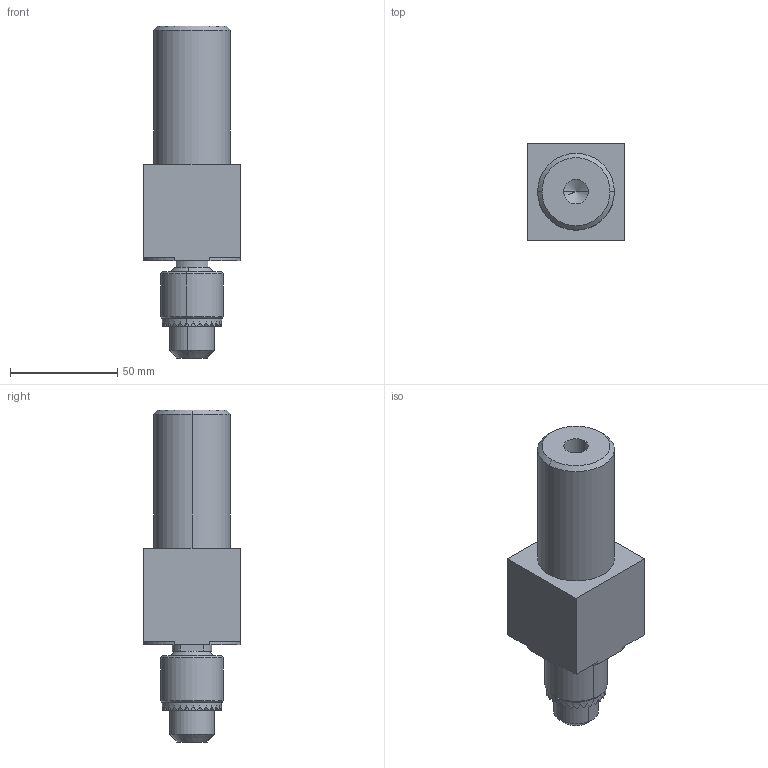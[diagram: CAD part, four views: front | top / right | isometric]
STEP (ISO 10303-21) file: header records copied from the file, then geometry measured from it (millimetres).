
FILE_DESCRIPTION (( 'STEP AP203' ), '1' );
FILE_NAME ('BE2222-22220SK with keychuck 0,5-6,5mm.STEP', '2009-10-15T06:51:09', ( 'HP' ), ( '' ), 'SwSTEP 2.0', 'SolidWorks 2008', '' );
FILE_SCHEMA (( 'CONFIG_CONTROL_DESIGN' ));
Length unit declared in the file: millimetre
Products named in the file (3): BE2222-22220SK with keychuck 0,5-6,5mm; BE2222-22220SK; 041J004003 keychuck 0,5-6,5mm
Assembly tree (2 placements, depth 2):
  BE2222-22220SK with keychuck 0,5-6,5mm
    BE2222-22220SK
    041J004003 keychuck 0,5-6,5mm
Bounding box: 45 x 45 x 154.9 mm (x, y, z)
Volume: 176355.3 mm3; surface area: 25718.9 mm2
Topology: 3 solids, 3 shells, 192 faces, 486 edges, 299 vertices
Faces by surface type: plane 134, cylinder 32, cone 26
Entity records: 5887 total; most frequent: CARTESIAN_POINT 1136, ORIENTED_EDGE 944, DIRECTION 914, EDGE_CURVE 472, VECTOR 312, LINE 312, AXIS2_PLACEMENT_3D 301, VERTEX_POINT 299
